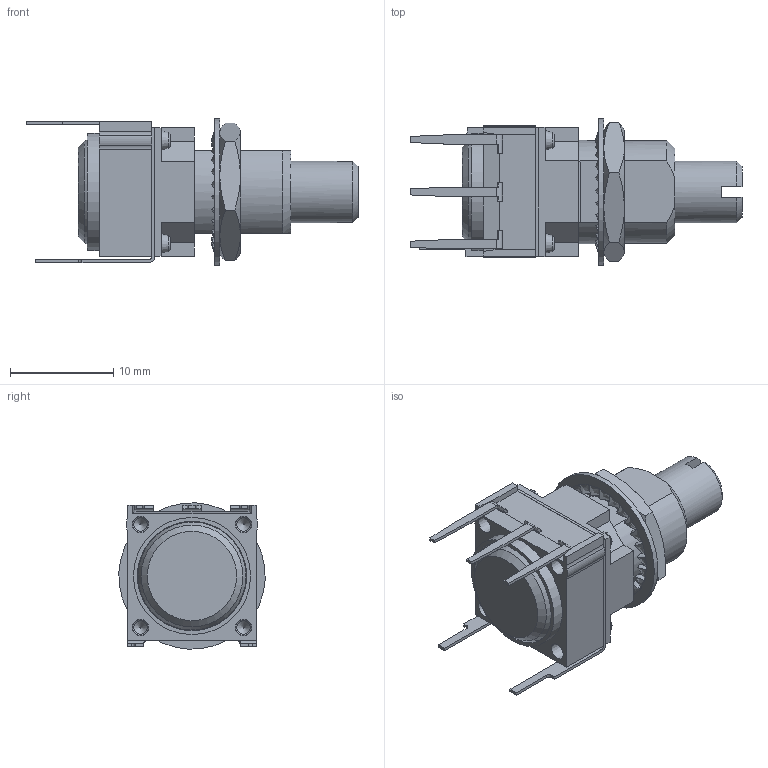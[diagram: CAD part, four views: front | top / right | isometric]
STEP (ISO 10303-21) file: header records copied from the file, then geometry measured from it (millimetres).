
FILE_DESCRIPTION(/* description */ ('P11S1V0FGSW00103MA'),/* implementation_level */ '2;1');
FILE_NAME(/* name */ 'P11S1V0FGSW00103MA',/* time_stamp */ '2025-07-25T15:05:29+02:00',/* author */ ('N. Lapouge'),/* organization */ ('Vishay'),/* preprocessor_version */ 'ST-DEVELOPER v19.4',/* originating_system */ 'Solid Edge',/* authorisation */ 'Unknown');
FILE_SCHEMA (('AUTOMOTIVE_DESIGN {1 0 10303 214 3 1 1}'));
Length unit declared in the file: millimetre
Products named in the file (13): P11S1V0FGSW00103MA; 3653420; 3653020; M1-W00-103_oa_0; 3650913; grille_p11_ci_tordue; collecteur+sortie2_Ci_tordue; sortie1_Ci_tordue; sortie3_Ci_tordue; 3650540; 3650810W; 0685710; 3653200
Assembly tree (12 placements, depth 4):
  P11S1V0FGSW00103MA
    3653420
    3653020
    M1-W00-103_oa_0
      3650913
      grille_p11_ci_tordue
        collecteur+sortie2_Ci_tordue
        sortie1_Ci_tordue
        sortie3_Ci_tordue
    3650540
    3650810W
    0685710
    3653200
Bounding box: 32.19 x 14.19 x 14.19 mm (x, y, z)
Volume: 1812.4 mm3; surface area: 3433 mm2
Topology: 10 solids, 10 shells, 733 faces, 2034 edges, 1340 vertices
Faces by surface type: plane 392, cylinder 159, bspline 116, cone 57, torus 9
Full cylindrical faces by diameter (mm): 1.3 x4, 1.5 x8, 1.55 x8, 3.4 x1, 3.97 x1, 4 x1, 4.1 x1, 5.25 x1, 5.6 x1, 6 x2, 6.4 x1, 7.42 x1, 7.44 x1, 8.4 x1, 9.188 x1, 9.65 x1, 10.6 x1, 10.8 x1, 11.35 x1, 14.2 x1
Entity records: 25446 total; most frequent: CARTESIAN_POINT 7048, ORIENTED_EDGE 3862, DIRECTION 3163, EDGE_CURVE 1931, VERTEX_POINT 1308, LINE 1065, VECTOR 1065, AXIS2_PLACEMENT_3D 1049
